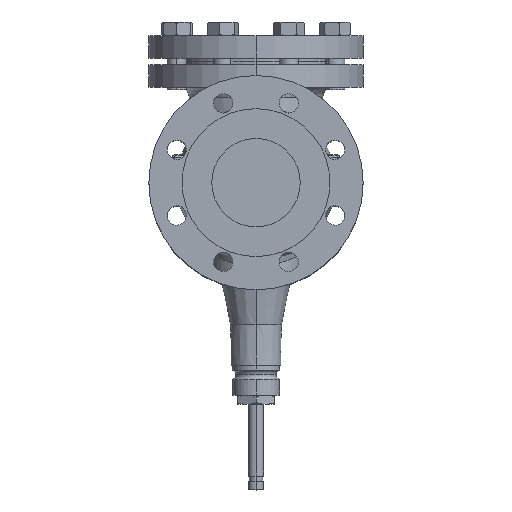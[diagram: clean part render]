
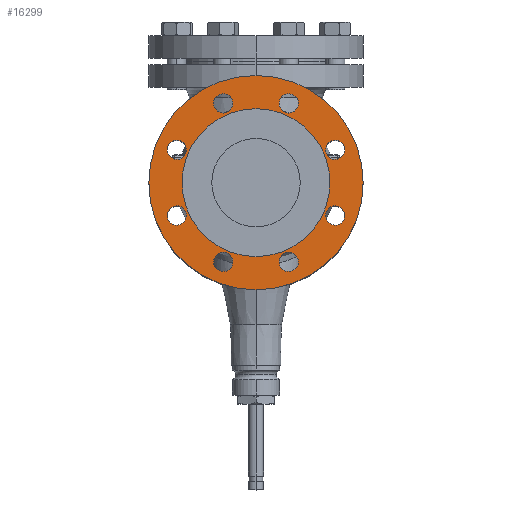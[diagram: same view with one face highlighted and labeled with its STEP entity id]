
A CAD part, top view. The second image highlights one B-rep face of the part: STEP entity #16299.
In plain terms, the highlighted planar face has unit normal (0, 0, 1).
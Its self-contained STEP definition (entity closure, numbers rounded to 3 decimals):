
#15475=CARTESIAN_POINT('',(0.,-100.,307.));
#15476=VERTEX_POINT('',#15475);
#15492=CARTESIAN_POINT('',(0.,100.,307.));
#15493=VERTEX_POINT('',#15492);
#15500=CARTESIAN_POINT('',(0.,0.,307.));
#15501=DIRECTION('',(0.0,0.0,1.0));
#15502=DIRECTION('',(0.0,-1.0,0.0));
#15503=AXIS2_PLACEMENT_3D('',#15500,#15501,#15502);
#15504=CIRCLE('',#15503,100.0);
#15505=EDGE_CURVE('',#15476,#15493,#15504,.T.);
#15515=CARTESIAN_POINT('',(-34.059,-82.225,307.));
#15516=VERTEX_POINT('',#15515);
#15525=CARTESIAN_POINT('',(-27.171,-65.595,307.));
#15526=VERTEX_POINT('',#15525);
#15527=CARTESIAN_POINT('',(-30.615,-73.91,307.));
#15528=DIRECTION('',(0.,0.,-1.));
#15529=DIRECTION('',(-0.383,-0.924,0.));
#15530=AXIS2_PLACEMENT_3D('',#15527,#15528,#15529);
#15531=CIRCLE('',#15530,9.0);
#15532=EDGE_CURVE('',#15526,#15516,#15531,.T.);
#15557=CARTESIAN_POINT('',(-82.225,-34.059,307.));
#15558=VERTEX_POINT('',#15557);
#15567=CARTESIAN_POINT('',(-65.595,-27.171,307.));
#15568=VERTEX_POINT('',#15567);
#15569=CARTESIAN_POINT('',(-73.91,-30.615,307.));
#15570=DIRECTION('',(0.,0.,-1.));
#15571=DIRECTION('',(-0.924,-0.383,0.));
#15572=AXIS2_PLACEMENT_3D('',#15569,#15570,#15571);
#15573=CIRCLE('',#15572,9.);
#15574=EDGE_CURVE('',#15568,#15558,#15573,.T.);
#15599=CARTESIAN_POINT('',(-82.225,34.059,307.));
#15600=VERTEX_POINT('',#15599);
#15609=CARTESIAN_POINT('',(-65.595,27.171,307.));
#15610=VERTEX_POINT('',#15609);
#15611=CARTESIAN_POINT('',(-73.91,30.615,307.));
#15612=DIRECTION('',(0.,0.,-1.));
#15613=DIRECTION('',(-0.924,0.383,0.));
#15614=AXIS2_PLACEMENT_3D('',#15611,#15612,#15613);
#15615=CIRCLE('',#15614,9.0);
#15616=EDGE_CURVE('',#15610,#15600,#15615,.T.);
#15641=CARTESIAN_POINT('',(-34.059,82.225,307.));
#15642=VERTEX_POINT('',#15641);
#15651=CARTESIAN_POINT('',(-27.171,65.595,307.));
#15652=VERTEX_POINT('',#15651);
#15653=CARTESIAN_POINT('',(-30.615,73.91,307.));
#15654=DIRECTION('',(0.,0.,-1.0));
#15655=DIRECTION('',(-0.383,0.924,0.));
#15656=AXIS2_PLACEMENT_3D('',#15653,#15654,#15655);
#15657=CIRCLE('',#15656,9.0);
#15658=EDGE_CURVE('',#15652,#15642,#15657,.T.);
#15683=CARTESIAN_POINT('',(34.059,82.225,307.));
#15684=VERTEX_POINT('',#15683);
#15693=CARTESIAN_POINT('',(27.171,65.595,307.));
#15694=VERTEX_POINT('',#15693);
#15695=CARTESIAN_POINT('',(30.615,73.91,307.));
#15696=DIRECTION('',(0.,0.,-1.));
#15697=DIRECTION('',(0.383,0.924,0.));
#15698=AXIS2_PLACEMENT_3D('',#15695,#15696,#15697);
#15699=CIRCLE('',#15698,9.);
#15700=EDGE_CURVE('',#15694,#15684,#15699,.T.);
#15725=CARTESIAN_POINT('',(82.225,34.059,307.));
#15726=VERTEX_POINT('',#15725);
#15735=CARTESIAN_POINT('',(65.595,27.171,307.));
#15736=VERTEX_POINT('',#15735);
#15737=CARTESIAN_POINT('',(73.91,30.615,307.));
#15738=DIRECTION('',(0.,0.,-1.));
#15739=DIRECTION('',(0.924,0.383,0.));
#15740=AXIS2_PLACEMENT_3D('',#15737,#15738,#15739);
#15741=CIRCLE('',#15740,9.);
#15742=EDGE_CURVE('',#15736,#15726,#15741,.T.);
#15767=CARTESIAN_POINT('',(82.225,-34.059,307.));
#15768=VERTEX_POINT('',#15767);
#15777=CARTESIAN_POINT('',(65.595,-27.171,307.));
#15778=VERTEX_POINT('',#15777);
#15779=CARTESIAN_POINT('',(73.91,-30.615,307.));
#15780=DIRECTION('',(0.,0.,-1.0));
#15781=DIRECTION('',(0.924,-0.383,0.));
#15782=AXIS2_PLACEMENT_3D('',#15779,#15780,#15781);
#15783=CIRCLE('',#15782,9.);
#15784=EDGE_CURVE('',#15778,#15768,#15783,.T.);
#15809=CARTESIAN_POINT('',(34.059,-82.225,307.));
#15810=VERTEX_POINT('',#15809);
#15819=CARTESIAN_POINT('',(27.171,-65.595,307.));
#15820=VERTEX_POINT('',#15819);
#15821=CARTESIAN_POINT('',(30.615,-73.91,307.));
#15822=DIRECTION('',(0.,0.,-1.0));
#15823=DIRECTION('',(0.383,-0.924,0.));
#15824=AXIS2_PLACEMENT_3D('',#15821,#15822,#15823);
#15825=CIRCLE('',#15824,9.0);
#15826=EDGE_CURVE('',#15820,#15810,#15825,.T.);
#15851=CARTESIAN_POINT('',(0.,-69.,307.));
#15852=VERTEX_POINT('',#15851);
#15861=CARTESIAN_POINT('',(0.,69.,307.));
#15862=VERTEX_POINT('',#15861);
#15863=CARTESIAN_POINT('',(0.,0.,307.));
#15864=DIRECTION('',(0.0,0.0,-1.0));
#15865=DIRECTION('',(0.0,-1.0,0.0));
#15866=AXIS2_PLACEMENT_3D('',#15863,#15864,#15865);
#15867=CIRCLE('',#15866,69.0);
#15868=EDGE_CURVE('',#15862,#15852,#15867,.T.);
#15968=CARTESIAN_POINT('',(0.,0.,307.));
#15969=DIRECTION('',(0.0,0.0,-1.0));
#15970=DIRECTION('',(0.0,-1.0,0.0));
#15971=AXIS2_PLACEMENT_3D('',#15968,#15969,#15970);
#15972=CIRCLE('',#15971,69.0);
#15973=EDGE_CURVE('',#15852,#15862,#15972,.T.);
#16006=CARTESIAN_POINT('',(30.615,-73.91,307.));
#16007=DIRECTION('',(0.,0.,-1.0));
#16008=DIRECTION('',(0.383,-0.924,0.));
#16009=AXIS2_PLACEMENT_3D('',#16006,#16007,#16008);
#16010=CIRCLE('',#16009,9.0);
#16011=EDGE_CURVE('',#15810,#15820,#16010,.T.);
#16030=CARTESIAN_POINT('',(73.91,-30.615,307.));
#16031=DIRECTION('',(0.,0.,-1.0));
#16032=DIRECTION('',(0.924,-0.383,0.));
#16033=AXIS2_PLACEMENT_3D('',#16030,#16031,#16032);
#16034=CIRCLE('',#16033,9.);
#16035=EDGE_CURVE('',#15768,#15778,#16034,.T.);
#16054=CARTESIAN_POINT('',(73.91,30.615,307.));
#16055=DIRECTION('',(0.,0.,-1.));
#16056=DIRECTION('',(0.924,0.383,0.));
#16057=AXIS2_PLACEMENT_3D('',#16054,#16055,#16056);
#16058=CIRCLE('',#16057,9.);
#16059=EDGE_CURVE('',#15726,#15736,#16058,.T.);
#16078=CARTESIAN_POINT('',(30.615,73.91,307.));
#16079=DIRECTION('',(0.,0.,-1.));
#16080=DIRECTION('',(0.383,0.924,0.));
#16081=AXIS2_PLACEMENT_3D('',#16078,#16079,#16080);
#16082=CIRCLE('',#16081,9.);
#16083=EDGE_CURVE('',#15684,#15694,#16082,.T.);
#16102=CARTESIAN_POINT('',(-30.615,73.91,307.));
#16103=DIRECTION('',(0.,0.,-1.0));
#16104=DIRECTION('',(-0.383,0.924,0.));
#16105=AXIS2_PLACEMENT_3D('',#16102,#16103,#16104);
#16106=CIRCLE('',#16105,9.0);
#16107=EDGE_CURVE('',#15642,#15652,#16106,.T.);
#16126=CARTESIAN_POINT('',(-73.91,30.615,307.));
#16127=DIRECTION('',(0.,0.,-1.));
#16128=DIRECTION('',(-0.924,0.383,0.));
#16129=AXIS2_PLACEMENT_3D('',#16126,#16127,#16128);
#16130=CIRCLE('',#16129,9.0);
#16131=EDGE_CURVE('',#15600,#15610,#16130,.T.);
#16150=CARTESIAN_POINT('',(-73.91,-30.615,307.));
#16151=DIRECTION('',(0.,0.,-1.));
#16152=DIRECTION('',(-0.924,-0.383,0.));
#16153=AXIS2_PLACEMENT_3D('',#16150,#16151,#16152);
#16154=CIRCLE('',#16153,9.);
#16155=EDGE_CURVE('',#15558,#15568,#16154,.T.);
#16174=CARTESIAN_POINT('',(-30.615,-73.91,307.));
#16175=DIRECTION('',(0.,0.,-1.));
#16176=DIRECTION('',(-0.383,-0.924,0.));
#16177=AXIS2_PLACEMENT_3D('',#16174,#16175,#16176);
#16178=CIRCLE('',#16177,9.0);
#16179=EDGE_CURVE('',#15516,#15526,#16178,.T.);
#16190=CARTESIAN_POINT('',(0.,0.,307.));
#16191=DIRECTION('',(0.0,0.0,1.0));
#16192=DIRECTION('',(0.0,-1.0,0.0));
#16193=AXIS2_PLACEMENT_3D('',#16190,#16191,#16192);
#16194=CIRCLE('',#16193,100.0);
#16195=EDGE_CURVE('',#15493,#15476,#16194,.T.);
#16254=CARTESIAN_POINT('',(0.,0.,307.));
#16255=DIRECTION('',(0.0,0.0,1.0));
#16256=DIRECTION('',(0.0,-1.0,0.0));
#16257=AXIS2_PLACEMENT_3D('',#16254,#16255,#16256);
#16258=PLANE('',#16257);
#16259=ORIENTED_EDGE('',*,*,#15505,.T.);
#16260=ORIENTED_EDGE('',*,*,#16195,.T.);
#16261=EDGE_LOOP('',(#16259,#16260));
#16262=FACE_OUTER_BOUND('',#16261,.T.);
#16263=ORIENTED_EDGE('',*,*,#15973,.T.);
#16264=ORIENTED_EDGE('',*,*,#15868,.T.);
#16265=EDGE_LOOP('',(#16263,#16264));
#16266=FACE_BOUND('',#16265,.T.);
#16267=ORIENTED_EDGE('',*,*,#16011,.T.);
#16268=ORIENTED_EDGE('',*,*,#15826,.T.);
#16269=EDGE_LOOP('',(#16267,#16268));
#16270=FACE_BOUND('',#16269,.T.);
#16271=ORIENTED_EDGE('',*,*,#16035,.T.);
#16272=ORIENTED_EDGE('',*,*,#15784,.T.);
#16273=EDGE_LOOP('',(#16271,#16272));
#16274=FACE_BOUND('',#16273,.T.);
#16275=ORIENTED_EDGE('',*,*,#16059,.T.);
#16276=ORIENTED_EDGE('',*,*,#15742,.T.);
#16277=EDGE_LOOP('',(#16275,#16276));
#16278=FACE_BOUND('',#16277,.T.);
#16279=ORIENTED_EDGE('',*,*,#16083,.T.);
#16280=ORIENTED_EDGE('',*,*,#15700,.T.);
#16281=EDGE_LOOP('',(#16279,#16280));
#16282=FACE_BOUND('',#16281,.T.);
#16283=ORIENTED_EDGE('',*,*,#16107,.T.);
#16284=ORIENTED_EDGE('',*,*,#15658,.T.);
#16285=EDGE_LOOP('',(#16283,#16284));
#16286=FACE_BOUND('',#16285,.T.);
#16287=ORIENTED_EDGE('',*,*,#16131,.T.);
#16288=ORIENTED_EDGE('',*,*,#15616,.T.);
#16289=EDGE_LOOP('',(#16287,#16288));
#16290=FACE_BOUND('',#16289,.T.);
#16291=ORIENTED_EDGE('',*,*,#16155,.T.);
#16292=ORIENTED_EDGE('',*,*,#15574,.T.);
#16293=EDGE_LOOP('',(#16291,#16292));
#16294=FACE_BOUND('',#16293,.T.);
#16295=ORIENTED_EDGE('',*,*,#16179,.T.);
#16296=ORIENTED_EDGE('',*,*,#15532,.T.);
#16297=EDGE_LOOP('',(#16295,#16296));
#16298=FACE_BOUND('',#16297,.T.);
#16299=ADVANCED_FACE('',(#16262,#16266,#16270,#16274,#16278,#16282,#16286,#16290,#16294,#16298),#16258,.T.);
